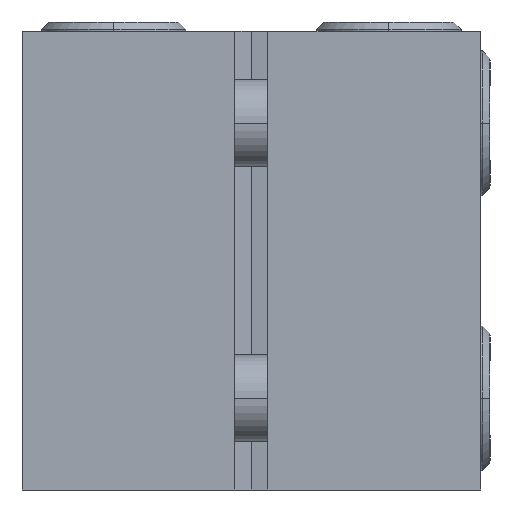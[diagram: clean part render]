
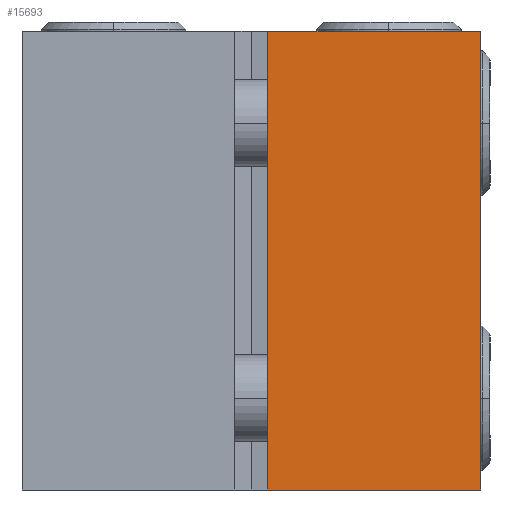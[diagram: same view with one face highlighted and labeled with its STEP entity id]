
A CAD part, left-side view. The second image highlights one B-rep face of the part: STEP entity #15693.
In plain terms, the highlighted planar face has unit normal (-1, 0, 0).
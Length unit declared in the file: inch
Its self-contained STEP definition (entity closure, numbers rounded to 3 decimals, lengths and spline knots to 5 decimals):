
#173 = PLANE ( 'NONE',  #3384 ) ;
#174 = CARTESIAN_POINT ( 'NONE',  ( 0., 1.25, 0. ) ) ;
#175 = DIRECTION ( 'NONE',  ( 1., 0., 0. ) ) ;
#176 = DIRECTION ( 'NONE',  ( 0., 0., -1. ) ) ;
#800 = EDGE_LOOP ( 'NONE', ( #11213, #11214, #11215, #11216 ) ) ;
#3384 = AXIS2_PLACEMENT_3D ( 'NONE', #174, #175, #176 ) ;
#4608 = CARTESIAN_POINT ( 'NONE',  ( 0., 0.58, 0. ) ) ;
#4609 = DIRECTION ( 'NONE',  ( 0., 0., -1. ) ) ;
#4610 = CARTESIAN_POINT ( 'NONE',  ( 0., 1.25, -1.25 ) ) ;
#4611 = DIRECTION ( 'NONE',  ( 0., -1., 0. ) ) ;
#5454 = LINE ( 'NONE', #4608, #5456 ) ;
#5456 = VECTOR ( 'NONE', #4609, 39.37008 ) ;
#5457 = LINE ( 'NONE', #4610, #5458 ) ;
#5458 = VECTOR ( 'NONE', #4611, 39.37008 ) ;
#6046 = VERTEX_POINT ( 'NONE', #18913 ) ;
#6169 = VERTEX_POINT ( 'NONE', #18784 ) ;
#6177 = VERTEX_POINT ( 'NONE', #18773 ) ;
#6182 = VERTEX_POINT ( 'NONE', #18766 ) ;
#7352 = EDGE_CURVE ( 'NONE', #6169, #6177, #7765, .T. ) ;
#7357 = EDGE_CURVE ( 'NONE', #6182, #6177, #7772, .T. ) ;
#7765 = LINE ( 'NONE', #8528, #7766 ) ;
#7766 = VECTOR ( 'NONE', #8529, 39.37008 ) ;
#7772 = LINE ( 'NONE', #8541, #7773 ) ;
#7773 = VECTOR ( 'NONE', #8542, 39.37008 ) ;
#8528 = CARTESIAN_POINT ( 'NONE',  ( 0., 0., 0. ) ) ;
#8529 = DIRECTION ( 'NONE',  ( 0., 0., 1. ) ) ;
#8541 = CARTESIAN_POINT ( 'NONE',  ( 0., 1.25, 0. ) ) ;
#8542 = DIRECTION ( 'NONE',  ( 0., -1., 0. ) ) ;
#8820 = FACE_OUTER_BOUND ( 'NONE', #800, .T. ) ;
#11213 = ORIENTED_EDGE ( 'NONE', *, *, #7357, .F. ) ;
#11214 = ORIENTED_EDGE ( 'NONE', *, *, #17098, .T. ) ;
#11215 = ORIENTED_EDGE ( 'NONE', *, *, #17099, .T. ) ;
#11216 = ORIENTED_EDGE ( 'NONE', *, *, #7352, .T. ) ;
#15693 = ADVANCED_FACE ( 'NONE', ( #8820 ), #173, .F. ) ;
#17098 = EDGE_CURVE ( 'NONE', #6182, #6046, #5454, .T. ) ;
#17099 = EDGE_CURVE ( 'NONE', #6046, #6169, #5457, .T. ) ;
#18766 = CARTESIAN_POINT ( 'NONE',  ( 0., 0.58, 0. ) ) ;
#18773 = CARTESIAN_POINT ( 'NONE',  ( 0., 0., 0. ) ) ;
#18784 = CARTESIAN_POINT ( 'NONE',  ( 0., 0., -1.25 ) ) ;
#18913 = CARTESIAN_POINT ( 'NONE',  ( 0., 0.58, -1.25 ) ) ;
